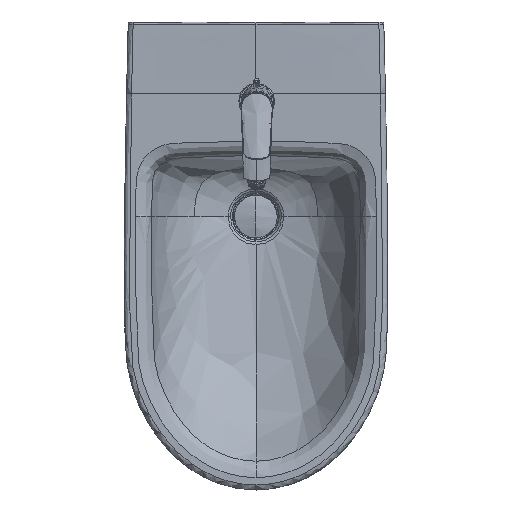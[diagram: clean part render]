
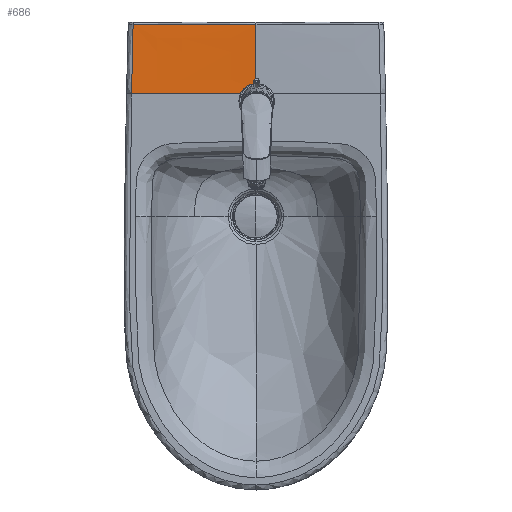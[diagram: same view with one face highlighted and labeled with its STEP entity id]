
A CAD part, top view. The second image highlights one B-rep face of the part: STEP entity #686.
In plain terms, the highlighted free-form (B-spline) face has degree [5, 5] with [6, 6] control points.
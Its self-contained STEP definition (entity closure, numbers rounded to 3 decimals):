
#101=B_SPLINE_SURFACE_WITH_KNOTS('',5,5,((#28887,#28888,#28889,#28890,#28891,
#28892),(#28893,#28894,#28895,#28896,#28897,#28898),(#28899,#28900,#28901,
#28902,#28903,#28904),(#28905,#28906,#28907,#28908,#28909,#28910),(#28911,
#28912,#28913,#28914,#28915,#28916),(#28917,#28918,#28919,#28920,#28921,
#28922)),.UNSPECIFIED.,.F.,.F.,.F.,(6,6),(6,6),(0.,100.027),
(0.,357.555),.UNSPECIFIED.);
#686=ADVANCED_FACE('',(#1314),#101,.T.);
#1314=FACE_OUTER_BOUND('',#1971,.T.);
#1971=EDGE_LOOP('',(#3873,#3874,#3875,#3876,#3877));
#3873=ORIENTED_EDGE('',*,*,#6485,.F.);
#3874=ORIENTED_EDGE('',*,*,#6490,.F.);
#3875=ORIENTED_EDGE('',*,*,#6074,.T.);
#3876=ORIENTED_EDGE('',*,*,#6075,.F.);
#3877=ORIENTED_EDGE('',*,*,#6073,.F.);
#6073=EDGE_CURVE('',#8827,#8828,#7283,.T.);
#6074=EDGE_CURVE('',#8820,#8819,#7284,.T.);
#6075=EDGE_CURVE('',#8828,#8819,#7285,.T.);
#6485=EDGE_CURVE('',#8829,#8827,#7628,.T.);
#6490=EDGE_CURVE('',#8820,#8829,#7633,.T.);
#7283=B_SPLINE_CURVE_WITH_KNOTS('',3,(#69773,#69774,#69775,#69776),
 .UNSPECIFIED.,.F.,.F.,(4,4),(111.314,353.802),
 .UNSPECIFIED.);
#7284=B_SPLINE_CURVE_WITH_KNOTS('',3,(#69777,#69778,#69779,#69780),
 .UNSPECIFIED.,.F.,.F.,(4,4),(-23.773,0.),
 .UNSPECIFIED.);
#7285=B_SPLINE_CURVE_WITH_KNOTS('',5,(#69781,#69782,#69783,#69784,#69785,
#69786),.UNSPECIFIED.,.F.,.F.,(6,6),(4.368,130.863),
 .UNSPECIFIED.);
#7628=B_SPLINE_CURVE_WITH_KNOTS('',5,(#74040,#74041,#74042,#74043,#74044,
#74045,#74046,#74047,#74048,#74049,#74050,#74051),.UNSPECIFIED.,.F.,.F.,
(6,3,3,6),(-351.528,-338.261,-282.971,-214.414),
 .UNSPECIFIED.);
#7633=B_SPLINE_CURVE_WITH_KNOTS('',5,(#74215,#74216,#74217,#74218,#74219,
#74220),.UNSPECIFIED.,.F.,.F.,(6,6),(193.058,350.598),
 .UNSPECIFIED.);
#8819=VERTEX_POINT('',#66726);
#8820=VERTEX_POINT('',#66727);
#8827=VERTEX_POINT('',#66734);
#8828=VERTEX_POINT('',#66735);
#8829=VERTEX_POINT('',#66736);
#28887=CARTESIAN_POINT('',(206.691,225.004,199.042));
#28888=CARTESIAN_POINT('',(134.725,225.004,199.042));
#28889=CARTESIAN_POINT('',(62.808,225.004,199.042));
#28890=CARTESIAN_POINT('',(-9.093,225.004,199.042));
#28891=CARTESIAN_POINT('',(-81.011,225.004,199.042));
#28892=CARTESIAN_POINT('',(-152.976,225.004,199.042));
#28893=CARTESIAN_POINT('',(206.268,245.005,199.042));
#28894=CARTESIAN_POINT('',(134.475,245.004,199.042));
#28895=CARTESIAN_POINT('',(62.725,245.01,199.042));
#28896=CARTESIAN_POINT('',(-9.011,245.01,199.042));
#28897=CARTESIAN_POINT('',(-80.761,245.004,199.042));
#28898=CARTESIAN_POINT('',(-152.554,245.005,199.042));
#28899=CARTESIAN_POINT('',(205.824,265.006,199.042));
#28900=CARTESIAN_POINT('',(134.212,265.004,199.362));
#28901=CARTESIAN_POINT('',(62.638,265.01,199.522));
#28902=CARTESIAN_POINT('',(-8.923,265.01,199.522));
#28903=CARTESIAN_POINT('',(-80.498,265.004,199.362));
#28904=CARTESIAN_POINT('',(-152.109,265.006,199.042));
#28905=CARTESIAN_POINT('',(205.357,285.006,199.042));
#28906=CARTESIAN_POINT('',(133.936,285.004,199.842));
#28907=CARTESIAN_POINT('',(62.546,285.007,200.242));
#28908=CARTESIAN_POINT('',(-8.832,285.007,200.242));
#28909=CARTESIAN_POINT('',(-80.221,285.004,199.842));
#28910=CARTESIAN_POINT('',(-151.642,285.006,199.042));
#28911=CARTESIAN_POINT('',(204.868,305.005,199.042));
#28912=CARTESIAN_POINT('',(133.646,305.004,200.323));
#28913=CARTESIAN_POINT('',(62.451,305.004,200.962));
#28914=CARTESIAN_POINT('',(-8.736,305.004,200.962));
#28915=CARTESIAN_POINT('',(-79.932,305.004,200.323));
#28916=CARTESIAN_POINT('',(-151.154,305.005,199.042));
#28917=CARTESIAN_POINT('',(204.357,325.004,199.042));
#28918=CARTESIAN_POINT('',(133.343,325.004,200.642));
#28919=CARTESIAN_POINT('',(62.35,325.004,201.442));
#28920=CARTESIAN_POINT('',(-8.636,325.004,201.442));
#28921=CARTESIAN_POINT('',(-79.629,325.004,200.642));
#28922=CARTESIAN_POINT('',(-150.643,325.004,199.042));
#66726=CARTESIAN_POINT('',(26.857,232.504,199.064));
#66727=CARTESIAN_POINT('',(12.496,225.004,199.042));
#66734=CARTESIAN_POINT('',(-143.864,321.979,199.189));
#66735=CARTESIAN_POINT('',(26.857,321.933,200.979));
#66736=CARTESIAN_POINT('',(-145.975,225.004,199.042));
#69773=CARTESIAN_POINT('',(-143.864,321.979,199.189));
#69774=CARTESIAN_POINT('',(-86.947,321.948,200.383));
#69775=CARTESIAN_POINT('',(-30.045,321.933,200.979));
#69776=CARTESIAN_POINT('',(26.857,321.933,200.979));
#69777=CARTESIAN_POINT('',(12.496,225.004,199.042));
#69778=CARTESIAN_POINT('',(15.763,229.697,199.042));
#69779=CARTESIAN_POINT('',(21.123,232.504,199.064));
#69780=CARTESIAN_POINT('',(26.857,232.504,199.064));
#69781=CARTESIAN_POINT('',(26.857,321.933,200.979));
#69782=CARTESIAN_POINT('',(26.857,304.047,200.6));
#69783=CARTESIAN_POINT('',(26.857,286.162,200.077));
#69784=CARTESIAN_POINT('',(26.857,268.278,199.55));
#69785=CARTESIAN_POINT('',(26.857,250.393,199.165));
#69786=CARTESIAN_POINT('',(26.857,232.504,199.064));
#74040=CARTESIAN_POINT('',(-145.975,225.004,199.042));
#74041=CARTESIAN_POINT('',(-145.935,226.879,199.042));
#74042=CARTESIAN_POINT('',(-145.896,228.754,199.042));
#74043=CARTESIAN_POINT('',(-145.855,230.691,199.043));
#74044=CARTESIAN_POINT('',(-145.651,240.381,199.047));
#74045=CARTESIAN_POINT('',(-145.448,250.071,199.057));
#74046=CARTESIAN_POINT('',(-145.283,257.886,199.068));
#74047=CARTESIAN_POINT('',(-144.913,275.394,199.098));
#74048=CARTESIAN_POINT('',(-144.533,292.903,199.135));
#74049=CARTESIAN_POINT('',(-144.317,302.596,199.155));
#74050=CARTESIAN_POINT('',(-144.095,312.287,199.173));
#74051=CARTESIAN_POINT('',(-143.864,321.979,199.189));
#74215=CARTESIAN_POINT('',(12.496,225.004,199.042));
#74216=CARTESIAN_POINT('',(-19.191,225.004,199.042));
#74217=CARTESIAN_POINT('',(-50.879,225.004,199.042));
#74218=CARTESIAN_POINT('',(-82.57,225.004,199.042));
#74219=CARTESIAN_POINT('',(-114.268,225.004,199.042));
#74220=CARTESIAN_POINT('',(-145.975,225.004,199.042));
